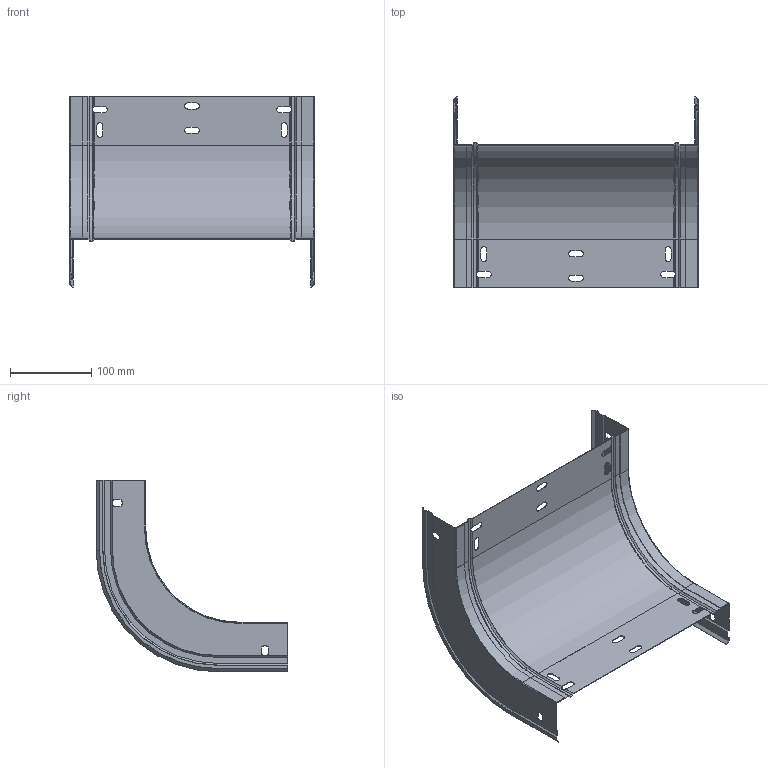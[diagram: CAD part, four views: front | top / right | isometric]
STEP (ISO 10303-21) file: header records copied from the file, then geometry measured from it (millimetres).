
FILE_DESCRIPTION (( 'STEP AP203' ), '1' );
FILE_NAME ('ERE_CONVEXA 300x60.step', '2023-07-27T18:49:03', ( '' ), ( '' ), 'SwSTEP 2.0', 'SolidWorks 2022', '' );
FILE_SCHEMA (( 'CONFIG_CONTROL_DESIGN' ));
Length unit declared in the file: millimetre
Products named in the file (3): ERE_CONVEXA 300x60; ERE_BASE CX_300; ERE_LATERAL CX_60
Assembly tree (3 placements, depth 2):
  ERE_CONVEXA 300x60
    ERE_BASE CX_300
    ERE_LATERAL CX_60  x2
Bounding box: 300 x 235.2 x 235.2 mm (x, y, z)
Volume: 116475.9 mm3; surface area: 294083.3 mm2
Topology: 3 solids, 3 shells, 232 faces, 632 edges, 394 vertices
Faces by surface type: plane 142, cylinder 64, cone 22, torus 4
Entity records: 5896 total; most frequent: CARTESIAN_POINT 1008, ORIENTED_EDGE 966, DIRECTION 957, EDGE_CURVE 483, LINE 343, VECTOR 343, AXIS2_PLACEMENT_3D 307, VERTEX_POINT 302
